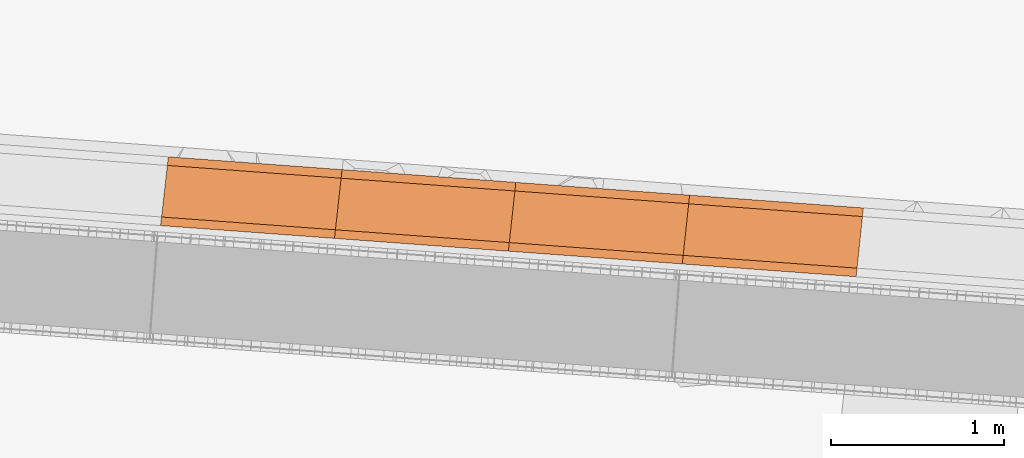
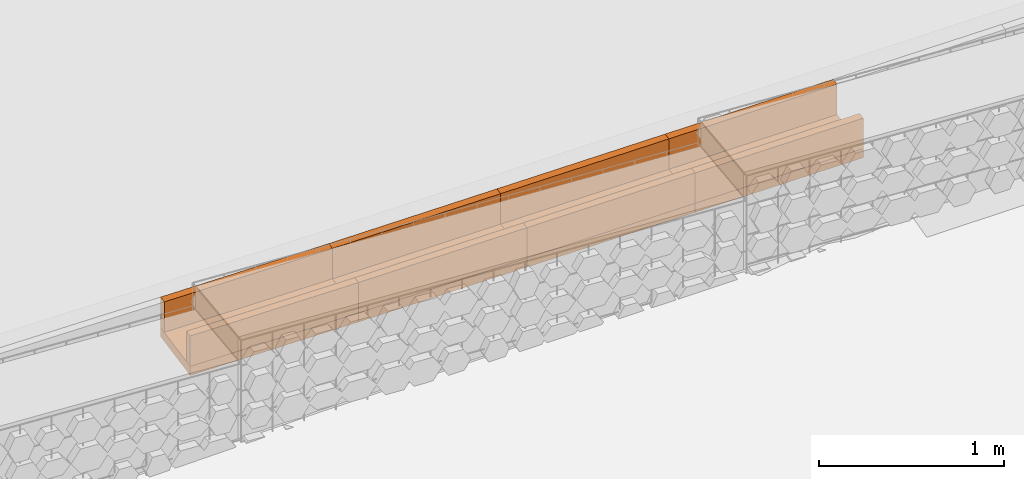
# Not in any storey, part 37 of 45: 12 proxies.
"""IFC4 model written with IfcOpenShell, lengths in metres."""

from ifc_helpers import new_model, si_unit, direction, frame, origin_with_axes, place, context, subcontext, project, spatial, polygons, material, element, save


model = new_model("IFC4")

# Units and contexts
model_context = context("Model", 3, precision=1e-05, world=origin_with_axes(), true_north=direction((0.0, 1.0)))
body_context = subcontext(model_context, "Body", "Model", "MODEL_VIEW")
ifc_project = project(units=[si_unit("VOLUMEUNIT", "CUBIC_METRE"), si_unit("LENGTHUNIT", "METRE"), si_unit("AREAUNIT", "SQUARE_METRE")], contexts=[model_context])

# Site
site_placement = place(None, origin_with_axes())
site = spatial("IfcSite", under=ifc_project, at=site_placement, Name="Lares · Rua das Mercês · artigo 4771")

# Proxies
ifc_material = material(Name="Caleiras · betão", Category="concrete")
proxy_1_placement = place(site_placement, frame((0.0, 0.0, 0.0), z_axis=(0.0, 0.0, 1.0), x_axis=(1.0, -1.03767253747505e-17, 0.0)))
element("IfcBuildingElementProxy", 1, at=proxy_1_placement, inside=site, material=ifc_material, Name="Acesso · canal lateral", ObjectType="Acesso · canal lateral", PredefinedType="USERDEFINED", context=body_context, shape_type="Tessellation", body=[
    polygons([(70.6886304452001, 0.973362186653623, 15.360890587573), (70.733515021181, 1.37083592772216, 15.360890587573), (71.7383507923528, 1.29694554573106, 15.4061354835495), (71.693466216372, 0.899471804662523, 15.4061354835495), (70.6886304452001, 0.973362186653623, 15.420890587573), (70.733515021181, 1.37083592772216, 15.420890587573), (71.7383507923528, 1.29694554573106, 15.4661354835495), (71.693466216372, 0.899471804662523, 15.4661354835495)], [[[4, 3, 2, 1]], [[5, 6, 7, 8]], [[1, 2, 6, 5]], [[2, 3, 7, 6]], [[3, 4, 8, 7]], [[4, 1, 5, 8]]]),
])
proxy_2_placement = place(site_placement, frame((0.0, 0.0, 0.0), z_axis=(0.0, 0.0, 1.0), x_axis=(1.0, -1.03767253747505e-17, 0.0)))
element("IfcBuildingElementProxy", 2, at=proxy_2_placement, inside=site, material=ifc_material, Name="Acesso · canal lateral", ObjectType="Acesso · canal lateral", PredefinedType="USERDEFINED", context=body_context, shape_type="Tessellation", body=[
    polygons([(70.6886304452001, 0.973362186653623, 15.420890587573), (70.6942410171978, 1.02304640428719, 15.420890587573), (71.6990767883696, 0.94915602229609, 15.4661354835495), (71.693466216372, 0.899471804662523, 15.4661354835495), (70.6886304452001, 0.973362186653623, 15.620890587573), (70.6942410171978, 1.02304640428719, 15.620890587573), (71.6990767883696, 0.94915602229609, 15.6661354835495), (71.693466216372, 0.899471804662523, 15.6661354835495)], [[[4, 3, 2, 1]], [[5, 6, 7, 8]], [[1, 2, 6, 5]], [[2, 3, 7, 6]], [[3, 4, 8, 7]], [[4, 1, 5, 8]]]),
])
proxy_3_placement = place(site_placement, frame((0.0, 0.0, 0.0), z_axis=(0.0, 0.0, 1.0), x_axis=(1.0, -1.03767253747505e-17, 0.0)))
element("IfcBuildingElementProxy", 3, at=proxy_3_placement, inside=site, material=ifc_material, Name="Acesso · canal lateral", ObjectType="Acesso · canal lateral", PredefinedType="USERDEFINED", context=body_context, shape_type="Tessellation", body=[
    polygons([(70.7279044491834, 1.32115171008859, 15.420890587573), (70.733515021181, 1.37083592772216, 15.420890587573), (71.7383507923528, 1.29694554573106, 15.4661354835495), (71.7327402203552, 1.24726132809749, 15.4661354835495), (70.7279044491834, 1.32115171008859, 15.620890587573), (70.733515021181, 1.37083592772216, 15.620890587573), (71.7383507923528, 1.29694554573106, 15.6661354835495), (71.7327402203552, 1.24726132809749, 15.6661354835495)], [[[4, 3, 2, 1]], [[5, 6, 7, 8]], [[1, 2, 6, 5]], [[2, 3, 7, 6]], [[3, 4, 8, 7]], [[4, 1, 5, 8]]]),
])
proxy_4_placement = place(site_placement, frame((0.0, 0.0, 0.0), z_axis=(0.0, 0.0, 1.0), x_axis=(1.0, -1.03767253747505e-17, 0.0)))
element("IfcBuildingElementProxy", 4, at=proxy_4_placement, inside=site, material=ifc_material, Name="Acesso · canal lateral", ObjectType="Acesso · canal lateral", PredefinedType="USERDEFINED", context=body_context, shape_type="Tessellation", body=[
    polygons([(71.693878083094, 0.89942572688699, 15.4061354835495), (71.7379389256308, 1.29699162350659, 15.4061354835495), (72.7427920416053, 1.22310042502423, 15.4597425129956), (72.6987311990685, 0.825534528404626, 15.4597425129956), (71.693878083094, 0.89942572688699, 15.4661354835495), (71.7379389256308, 1.29699162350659, 15.4661354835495), (72.7427920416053, 1.22310042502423, 15.5197425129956), (72.6987311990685, 0.825534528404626, 15.5197425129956)], [[[4, 3, 2, 1]], [[5, 6, 7, 8]], [[1, 2, 6, 5]], [[2, 3, 7, 6]], [[3, 4, 8, 7]], [[4, 1, 5, 8]]]),
])
proxy_5_placement = place(site_placement, frame((0.0, 0.0, 0.0), z_axis=(0.0, 0.0, 1.0), x_axis=(1.0, -1.03767253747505e-17, 0.0)))
element("IfcBuildingElementProxy", 5, at=proxy_5_placement, inside=site, material=ifc_material, Name="Acesso · canal lateral", ObjectType="Acesso · canal lateral", PredefinedType="USERDEFINED", context=body_context, shape_type="Tessellation", body=[
    polygons([(71.693878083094, 0.89942572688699, 15.4661354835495), (71.6993856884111, 0.949121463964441, 15.4661354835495), (72.7042388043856, 0.875230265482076, 15.5197425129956), (72.6987311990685, 0.825534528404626, 15.5197425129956), (71.693878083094, 0.89942572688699, 15.6661354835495), (71.6993856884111, 0.949121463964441, 15.6661354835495), (72.7042388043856, 0.875230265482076, 15.7197425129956), (72.6987311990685, 0.825534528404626, 15.7197425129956)], [[[4, 3, 2, 1]], [[5, 6, 7, 8]], [[1, 2, 6, 5]], [[2, 3, 7, 6]], [[3, 4, 8, 7]], [[4, 1, 5, 8]]]),
])
proxy_6_placement = place(site_placement, frame((0.0, 0.0, 0.0), z_axis=(0.0, 0.0, 1.0), x_axis=(1.0, -1.03767253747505e-17, 0.0)))
element("IfcBuildingElementProxy", 6, at=proxy_6_placement, inside=site, material=ifc_material, Name="Acesso · canal lateral", ObjectType="Acesso · canal lateral", PredefinedType="USERDEFINED", context=body_context, shape_type="Tessellation", body=[
    polygons([(71.7324313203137, 1.24729588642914, 15.4661354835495), (71.7379389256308, 1.29699162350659, 15.4661354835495), (72.7427920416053, 1.22310042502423, 15.5197425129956), (72.7372844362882, 1.17340468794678, 15.5197425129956), (71.7324313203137, 1.24729588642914, 15.6661354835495), (71.7379389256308, 1.29699162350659, 15.6661354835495), (72.7427920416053, 1.22310042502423, 15.7197425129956), (72.7372844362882, 1.17340468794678, 15.7197425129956)], [[[4, 3, 2, 1]], [[5, 6, 7, 8]], [[1, 2, 6, 5]], [[2, 3, 7, 6]], [[3, 4, 8, 7]], [[4, 1, 5, 8]]]),
])
proxy_7_placement = place(site_placement, frame((0.0, 0.0, 0.0), z_axis=(0.0, 0.0, 1.0), x_axis=(1.0, -1.03767253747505e-17, 0.0)))
element("IfcBuildingElementProxy", 7, at=proxy_7_placement, inside=site, material=ifc_material, Name="Acesso · canal lateral", ObjectType="Acesso · canal lateral", PredefinedType="USERDEFINED", context=body_context, shape_type="Tessellation", body=[
    polygons([(72.6991567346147, 0.825487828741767, 15.4597425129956), (72.7423665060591, 1.22314712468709, 15.4597425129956), (73.747237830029, 1.14925512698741, 15.5133495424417), (73.7040280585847, 0.751595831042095, 15.5133495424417), (72.6991567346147, 0.825487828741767, 15.5197425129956), (72.7423665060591, 1.22314712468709, 15.5197425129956), (73.747237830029, 1.14925512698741, 15.5733495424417), (73.7040280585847, 0.751595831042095, 15.5733495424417)], [[[4, 3, 2, 1]], [[5, 6, 7, 8]], [[1, 2, 6, 5]], [[2, 3, 7, 6]], [[3, 4, 8, 7]], [[4, 1, 5, 8]]]),
])
proxy_8_placement = place(site_placement, frame((0.0, 0.0, 0.0), z_axis=(0.0, 0.0, 1.0), x_axis=(1.0, -1.03767253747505e-17, 0.0)))
element("IfcBuildingElementProxy", 8, at=proxy_8_placement, inside=site, material=ifc_material, Name="Acesso · canal lateral", ObjectType="Acesso · canal lateral", PredefinedType="USERDEFINED", context=body_context, shape_type="Tessellation", body=[
    polygons([(72.6991567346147, 0.825487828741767, 15.5197425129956), (72.7045579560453, 0.875195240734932, 15.5197425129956), (73.7094292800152, 0.80130324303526, 15.5733495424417), (73.7040280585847, 0.751595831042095, 15.5733495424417), (72.6991567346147, 0.825487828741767, 15.7197425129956), (72.7045579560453, 0.875195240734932, 15.7197425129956), (73.7094292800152, 0.80130324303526, 15.7733495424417), (73.7040280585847, 0.751595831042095, 15.7733495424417)], [[[4, 3, 2, 1]], [[5, 6, 7, 8]], [[1, 2, 6, 5]], [[2, 3, 7, 6]], [[3, 4, 8, 7]], [[4, 1, 5, 8]]]),
])
proxy_9_placement = place(site_placement, frame((0.0, 0.0, 0.0), z_axis=(0.0, 0.0, 1.0), x_axis=(1.0, -1.03767253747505e-17, 0.0)))
element("IfcBuildingElementProxy", 9, at=proxy_9_placement, inside=site, material=ifc_material, Name="Acesso · canal lateral", ObjectType="Acesso · canal lateral", PredefinedType="USERDEFINED", context=body_context, shape_type="Tessellation", body=[
    polygons([(72.7369652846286, 1.17343971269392, 15.5197425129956), (72.7423665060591, 1.22314712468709, 15.5197425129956), (73.747237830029, 1.14925512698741, 15.5733495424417), (73.7418366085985, 1.09954771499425, 15.5733495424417), (72.7369652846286, 1.17343971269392, 15.7197425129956), (72.7423665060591, 1.22314712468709, 15.7197425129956), (73.747237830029, 1.14925512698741, 15.7733495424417), (73.7418366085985, 1.09954771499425, 15.7733495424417)], [[[4, 3, 2, 1]], [[5, 6, 7, 8]], [[1, 2, 6, 5]], [[2, 3, 7, 6]], [[3, 4, 8, 7]], [[4, 1, 5, 8]]]),
])
proxy_10_placement = place(site_placement, frame((0.0, 0.0, 0.0), z_axis=(0.0, 0.0, 1.0), x_axis=(1.0, -1.03767253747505e-17, 0.0)))
element("IfcBuildingElementProxy", 10, at=proxy_10_placement, inside=site, material=ifc_material, Name="Acesso · canal lateral", ObjectType="Acesso · canal lateral", PredefinedType="USERDEFINED", context=body_context, shape_type="Tessellation", body=[
    polygons([(73.7044679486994, 0.751548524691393, 15.5133495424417), (73.7467979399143, 1.14930243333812, 15.5133495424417), (74.7516883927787, 1.07540965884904, 15.5669565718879), (74.7093584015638, 0.677655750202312, 15.5669565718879), (73.7044679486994, 0.751548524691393, 15.5733495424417), (73.7467979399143, 1.14930243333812, 15.5733495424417), (74.7516883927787, 1.07540965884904, 15.6269565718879), (74.7093584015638, 0.677655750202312, 15.6269565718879)], [[[4, 3, 2, 1]], [[5, 6, 7, 8]], [[1, 2, 6, 5]], [[2, 3, 7, 6]], [[3, 4, 8, 7]], [[4, 1, 5, 8]]]),
])
proxy_11_placement = place(site_placement, frame((0.0, 0.0, 0.0), z_axis=(0.0, 0.0, 1.0), x_axis=(1.0, -1.03767253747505e-17, 0.0)))
element("IfcBuildingElementProxy", 11, at=proxy_11_placement, inside=site, material=ifc_material, Name="Acesso · canal lateral", ObjectType="Acesso · canal lateral", PredefinedType="USERDEFINED", context=body_context, shape_type="Tessellation", body=[
    polygons([(73.7044679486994, 0.751548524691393, 15.5733495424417), (73.7097591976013, 0.801267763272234, 15.5733495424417), (74.7146496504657, 0.727374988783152, 15.6269565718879), (74.7093584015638, 0.677655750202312, 15.6269565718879), (73.7044679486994, 0.751548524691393, 15.7733495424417), (73.7097591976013, 0.801267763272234, 15.7733495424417), (74.7146496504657, 0.727374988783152, 15.8269565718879), (74.7093584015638, 0.677655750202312, 15.8269565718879)], [[[4, 3, 2, 1]], [[5, 6, 7, 8]], [[1, 2, 6, 5]], [[2, 3, 7, 6]], [[3, 4, 8, 7]], [[4, 1, 5, 8]]]),
])
proxy_12_placement = place(site_placement, frame((0.0, 0.0, 0.0), z_axis=(0.0, 0.0, 1.0), x_axis=(1.0, -1.03767253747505e-17, 0.0)))
element("IfcBuildingElementProxy", 12, at=proxy_12_placement, inside=site, material=ifc_material, Name="Acesso · canal lateral", ObjectType="Acesso · canal lateral", PredefinedType="USERDEFINED", context=body_context, shape_type="Tessellation", body=[
    polygons([(73.7415066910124, 1.09958319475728, 15.5733495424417), (73.7467979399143, 1.14930243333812, 15.5733495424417), (74.7516883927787, 1.07540965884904, 15.6269565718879), (74.7463971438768, 1.02569042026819, 15.6269565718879), (73.7415066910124, 1.09958319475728, 15.7733495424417), (73.7467979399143, 1.14930243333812, 15.7733495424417), (74.7516883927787, 1.07540965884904, 15.8269565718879), (74.7463971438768, 1.02569042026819, 15.8269565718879)], [[[4, 3, 2, 1]], [[5, 6, 7, 8]], [[1, 2, 6, 5]], [[2, 3, 7, 6]], [[3, 4, 8, 7]], [[4, 1, 5, 8]]]),
])

save(model, "model.ifc")
